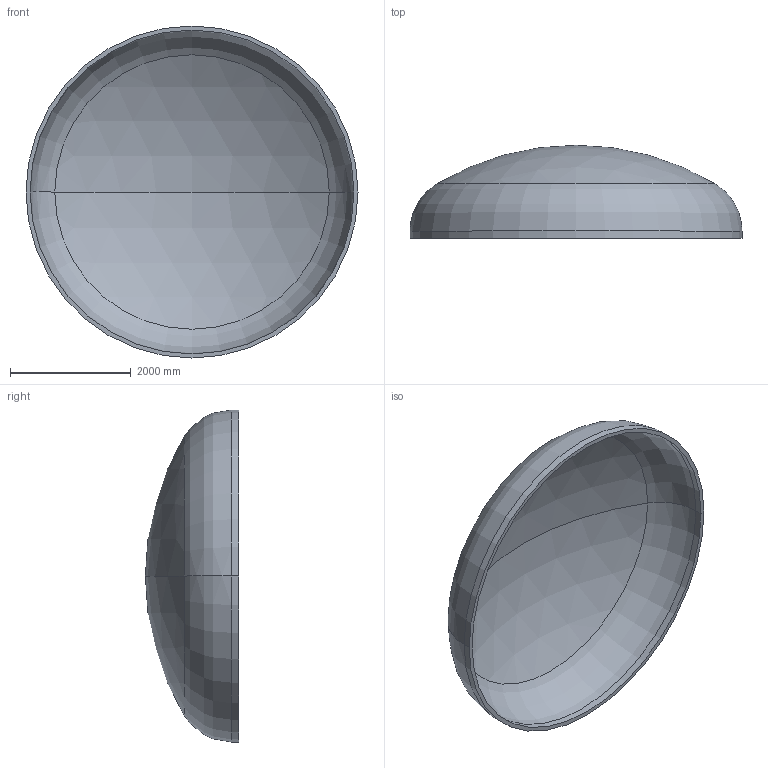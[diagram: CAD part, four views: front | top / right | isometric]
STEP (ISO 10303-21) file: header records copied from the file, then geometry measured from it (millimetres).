
FILE_DESCRIPTION (( 'STEP AP203' ), '1' );
FILE_NAME ('DIN 28013 Korbbogenform_-_Boden DIN 28013 - 5500 x 120 - I - s=68.step', '2016-07-04T10:34:40', ( '' ), ( '' ), 'SwSTEP 2.0', 'SolidWorks 2013', '' );
FILE_SCHEMA (( 'CONFIG_CONTROL_DESIGN' ));
Length unit declared in the file: millimetre
Products named in the file (1): DIN 28013 Korbbogenform_-_Boden DIN 28013 - 5500 x 120 - I - s=68
Bounding box: 5500 x 1544.41 x 5500 mm (x, y, z)
Volume: 2339486481 mm3; surface area: 69978513.5 mm2
Topology: 1 solids, 1 shells, 13 faces, 24 edges, 14 vertices
Faces by surface type: torus 4, cylinder 4, sphere 4, plane 1
Entity records: 407 total; most frequent: DIRECTION 72, CARTESIAN_POINT 52, ORIENTED_EDGE 48, AXIS2_PLACEMENT_3D 34, EDGE_CURVE 24, CIRCLE 20, VERTEX_POINT 14, EDGE_LOOP 14
